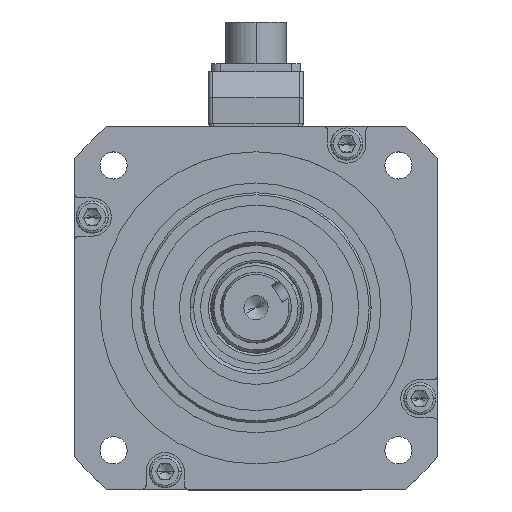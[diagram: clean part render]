
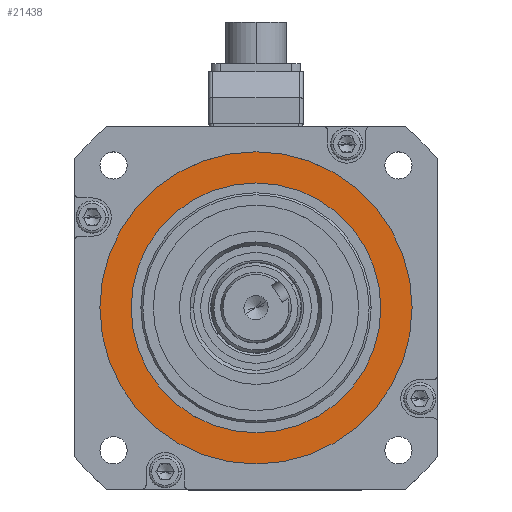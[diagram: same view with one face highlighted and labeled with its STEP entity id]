
A CAD part, top view. The second image highlights one B-rep face of the part: STEP entity #21438.
In plain terms, the highlighted planar face has unit normal (0, 0, 1).
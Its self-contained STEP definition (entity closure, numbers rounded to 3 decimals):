
#18344=CARTESIAN_POINT('',(0.,0.,20.));
#18345=DIRECTION('',(0.,0.,1.));
#18346=DIRECTION('',(1.,0.,0.));
#18347=AXIS2_PLACEMENT_3D('',#18344,#18345,#18346);
#18349=CARTESIAN_POINT('',(0.,0.,20.));
#18350=DIRECTION('',(0.,0.,1.));
#18351=DIRECTION('',(-1.,0.,0.));
#18352=AXIS2_PLACEMENT_3D('',#18349,#18350,#18351);
#18354=CARTESIAN_POINT('',(0.,0.,20.));
#18355=DIRECTION('',(0.,0.,-1.));
#18356=DIRECTION('',(-1.,0.,0.));
#18357=AXIS2_PLACEMENT_3D('',#18354,#18355,#18356);
#18359=CARTESIAN_POINT('',(0.,0.,20.));
#18360=DIRECTION('',(0.,0.,-1.));
#18361=DIRECTION('',(1.,0.,0.));
#18362=AXIS2_PLACEMENT_3D('',#18359,#18360,#18361);
#19030=CARTESIAN_POINT('',(77.5,0.,20.));
#19031=VERTEX_POINT('',#19030);
#19034=CARTESIAN_POINT('',(-77.5,0.,20.));
#19035=VERTEX_POINT('',#19034);
#19036=CARTESIAN_POINT('',(62.,0.,20.));
#19037=VERTEX_POINT('',#19036);
#19038=CARTESIAN_POINT('',(-62.,0.,20.));
#19039=VERTEX_POINT('',#19038);
#21423=CARTESIAN_POINT('',(0.,0.,20.));
#21424=DIRECTION('',(0.,0.,1.));
#21425=DIRECTION('',(1.,0.,0.));
#21426=AXIS2_PLACEMENT_3D('',#21423,#21424,#21425);
#21427=PLANE('',#21426);
#21428=ORIENTED_EDGE('',*,*,#21405,.F.);
#21429=ORIENTED_EDGE('',*,*,#21415,.F.);
#21430=EDGE_LOOP('',(#21428,#21429));
#21431=FACE_OUTER_BOUND('',#21430,.F.);
#21433=ORIENTED_EDGE('',*,*,#21432,.F.);
#21435=ORIENTED_EDGE('',*,*,#21434,.F.);
#21436=EDGE_LOOP('',(#21433,#21435));
#21437=FACE_BOUND('',#21436,.F.);
#21438=ADVANCED_FACE('',(#21431,#21437),#21427,.T.);
#18348=CIRCLE('',#18347,77.5);
#18353=CIRCLE('',#18352,77.5);
#18358=CIRCLE('',#18357,62.);
#18363=CIRCLE('',#18362,62.);
#21405=EDGE_CURVE('',#19031,#19035,#18348,.T.);
#21415=EDGE_CURVE('',#19035,#19031,#18353,.T.);
#21432=EDGE_CURVE('',#19039,#19037,#18358,.T.);
#21434=EDGE_CURVE('',#19037,#19039,#18363,.T.);
